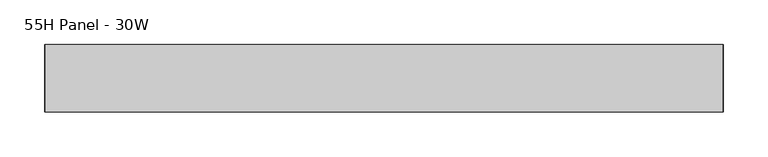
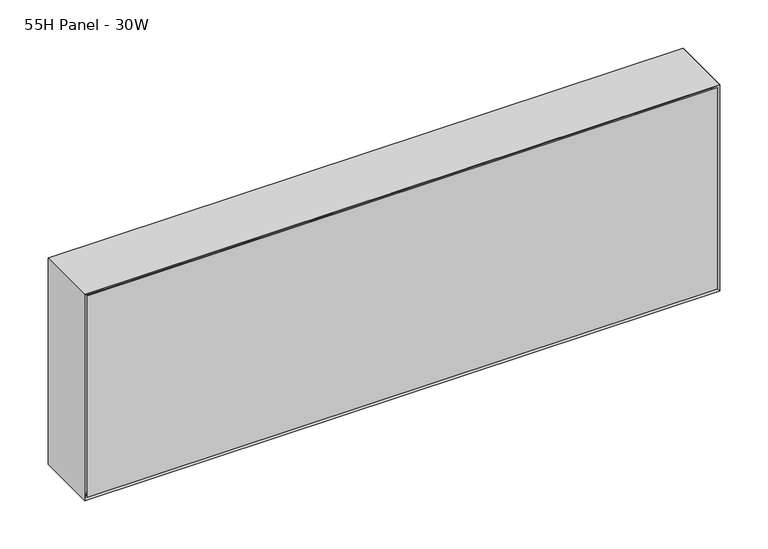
"""IFC4 building model written with IfcOpenShell, lengths in millimetres: furniture geometry, Steelcase - Montage - Frame - 10H - Enhanced Standard - Single Stack-On : 55H Panel - 30W."""

from ifc_helpers import new_model, si_unit, frame, origin, place, context, project, spatial, polyline, outline, extrude, faceted_brep, source, transform, mapped, element, save


def furniture_55h_panel_30w_c5a6d4be(model_context):
    return source(origin(), model_context, "Body", "SolidModel", [
        faceted_brep([(752.4750027, 31.7500194, 1651.0127415), (9.5250028, 31.7500194, 1651.0127415), (9.5250028, 31.7500194, 1408.1125), (752.4750027, 31.7500194, 1408.1125), (758.825, 38.1000194, 1657.3627415), (758.825, 38.1000194, 1401.7625), (3.175, 38.1000194, 1401.7625), (3.175, 38.1000194, 1657.3627415)], [[[0, 1, 2, 3]], [[4, 5, 6, 7]], [[4, 0, 3, 5]], [[5, 3, 2, 6]], [[6, 2, 1, 7]], [[7, 1, 0, 4]]]),
        faceted_brep([(752.4750027, -31.7500194, 1651.0127415), (752.4750027, -31.7500194, 1408.1125), (9.5250028, -31.7500194, 1408.1125), (9.5250028, -31.7500194, 1651.0127415), (758.825, -38.1000194, 1657.3627415), (3.175, -38.1000194, 1657.3627415), (3.175, -38.1000194, 1401.7625), (758.825, -38.1000194, 1401.7625)], [[[0, 1, 2, 3]], [[4, 5, 6, 7]], [[4, 7, 1, 0]], [[7, 6, 2, 1]], [[6, 5, 3, 2]], [[5, 4, 0, 3]]]),
        faceted_brep([(762.0, -38.1000015, 1398.5875), (762.0, 38.1000015, 1398.5875), (762.0, 38.1000015, 1660.5377415), (762.0, -38.1000106, 1660.5377414), (0.0, 38.1000015, 1398.5875), (0.0, -38.1000015, 1398.5875), (0.0, -38.1000015, 1660.5377415), (0.0, 38.1000015, 1660.5377415), (6.3500484, 31.749953, 1404.9375484), (755.6499879, 31.749953, 1404.9375484), (6.35, -31.749953, 1404.9375484), (755.6499879, -31.749953, 1404.9375484), (6.3500169, 31.7499846, 1654.1877245), (6.3500012, -31.7500003, 1654.187693), (755.6499879, -31.7499973, 1654.187693), (755.6499879, 31.7499885, 1654.1877293)], [[[0, 1, 2, 3]], [[4, 5, 6, 7]], [[1, 0, 5, 4]], [[1, 4, 8, 9]], [[9, 8, 10, 11]], [[5, 0, 11, 10]], [[4, 7, 12, 8]], [[6, 5, 10, 13]], [[10, 8, 12, 13]], [[9, 11, 14, 15]], [[0, 3, 14, 11]], [[2, 1, 9, 15]], [[3, 2, 15, 14]], [[7, 6, 13, 12]]]),
        faceted_brep([(762.0, -38.1000015, 1660.5377415), (0.0, -38.1000015, 1660.5377415), (6.3500484, -31.749953, 1654.187693), (755.6499516, -31.749953, 1654.187693), (6.3500484, 31.749953, 1654.187693), (755.6499516, 31.749953, 1654.187693), (0.0, 38.1000015, 1660.5377415), (762.0, 38.1000015, 1660.5377415)], [[[0, 1, 2, 3]], [[3, 2, 4, 5]], [[6, 7, 5, 4]], [[1, 0, 7, 6]], [[2, 1, 6, 4]], [[0, 3, 5, 7]]]),
        extrude(outline(polyline([(755.6499879, 31.7500016), (755.6499879, -31.7499985), (6.35, -31.7499985), (6.35, 31.7500016), (755.6499879, 31.7500016)])), frame((0.0, 0.0, 1404.9327145), z_axis=(0.0, 0.0, 1.0), x_axis=(1.0, 0.0, 0.0)), (0.0, 0.0, 1.0), 249.2549785),
    ])


if __name__ == "__main__":
    model = new_model("IFC4")
    model_context = context("Model", 3, world=origin())
    ifc_project = project(units=[si_unit("LENGTHUNIT", "METRE", prefix="MILLI")], contexts=[model_context])
    site = spatial("IfcSite", under=ifc_project)
    building = spatial("IfcBuilding", under=site)
    placement = place(None, origin())
    furniture_55h_panel_30w_shape = furniture_55h_panel_30w_c5a6d4be(model_context)
    element("IfcFurniture", 1, ObjectType="Steelcase - Montage - Frame - 10H - Enhanced Standard - Single Stack-On : 55H Panel - 30W", at=placement, inside=building, context=model_context, shape_type="MappedRepresentation", body=[
        mapped(furniture_55h_panel_30w_shape, transform((0.0, 0.0, 0.0), x_axis=(1.0, 0.0, 0.0), y_axis=(0.0, 1.0, 0.0), z_axis=(0.0, 0.0, 1.0))),
    ])
    save(model, "model.ifc")
